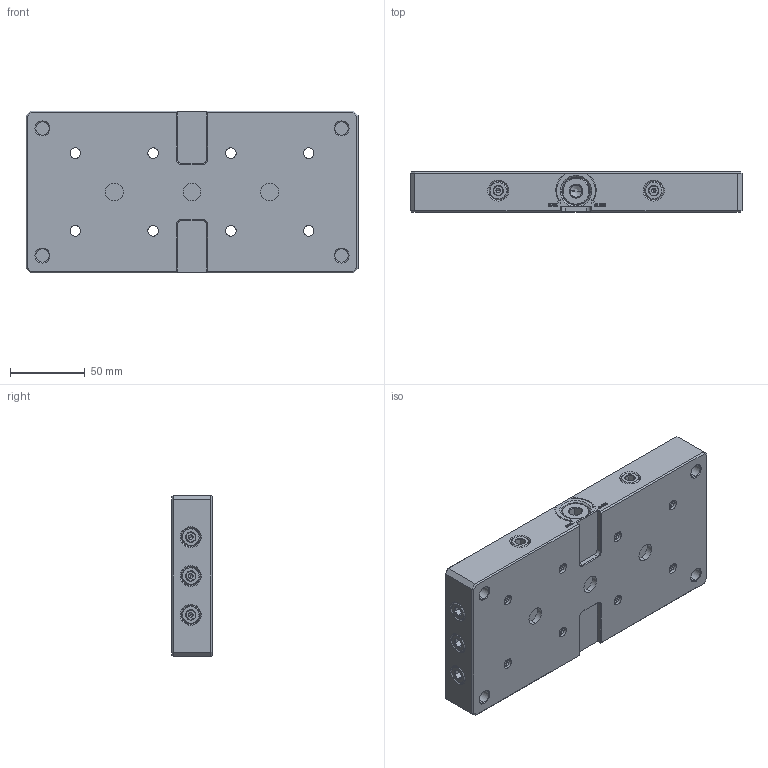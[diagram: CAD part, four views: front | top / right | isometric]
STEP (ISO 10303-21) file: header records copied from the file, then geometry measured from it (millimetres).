
FILE_DESCRIPTION((''),'2;1');
FILE_NAME('TI_WH_52ZPS_S213DNP001_ASM','2026-06-08T13:29:03',('Admin'),(''),'CREO PARAMETRIC BY PTC INC, 2025010','CREO PARAMETRIC BY PTC INC, 2025010','');
FILE_SCHEMA(('CONFIG_CONTROL_DESIGN'));
Products named in the file (26): H009-00933_-13680001; B11500-00184_O--500001; H009-00933_-59770001; B11500-00184_O--720001; B11500-00184_O--810001; B11500-00184_O--870001; H009-00933_-96460001; H009-00933_-117870001; F009-0066172A_-1-S0001; _20001; H009-00933_-241740001; B11500-00184_O--250003; H009-00933_-263540001; 200; F009-0010923B_-1-S0001; F009-0066172A_-2-S0001; B11500-00184_O--320001; B11500-00184_O--330001; H009-00933_-336470001; H009-00933_-351170001; F009-0066172A_-4-S0001; H009-00933_-438800001; B11500-00184_O--450001; H009-00933_-490920001; NT-S52P213V1_ASM; TI_WH_52ZPS_S213DNP001_ASM
Assembly tree (26 placements, depth 3):
  TI_WH_52ZPS_S213DNP001_ASM
    NT-S52P213V1_ASM
      H009-00933_-13680001
      B11500-00184_O--500001
      H009-00933_-59770001
      B11500-00184_O--720001
      B11500-00184_O--810001
      B11500-00184_O--870001
      H009-00933_-96460001
      H009-00933_-117870001
      F009-0066172A_-1-S0001
      _20001
      H009-00933_-241740001
      B11500-00184_O--250003
      H009-00933_-263540001
      200
      F009-0010923B_-1-S0001
      F009-0066172A_-2-S0001
      B11500-00184_O--320001
      B11500-00184_O--330001
      H009-00933_-336470001
      H009-00933_-351170001
      F009-0066172A_-4-S0001
      H009-00933_-438800001
      B11500-00184_O--450001
      H009-00933_-490920001
    F009-0066172A_-1-S0001
Bounding box: 222 x 27 x 108 mm (x, y, z)
Volume: 583929 mm3; surface area: 103616.4 mm2
Topology: 25 solids, 25 shells, 978 faces, 2276 edges, 1361 vertices
Faces by surface type: plane 327, cone 294, cylinder 252, torus 50, extrusion 40, bspline 15
Entity records: 53939 total; most frequent: CARTESIAN_POINT 32139, DIRECTION 4553, ORIENTED_EDGE 4296, EDGE_CURVE 2148, AXIS2_PLACEMENT_3D 1740, VERTEX_POINT 1311, VECTOR 1073, EDGE_LOOP 1065
